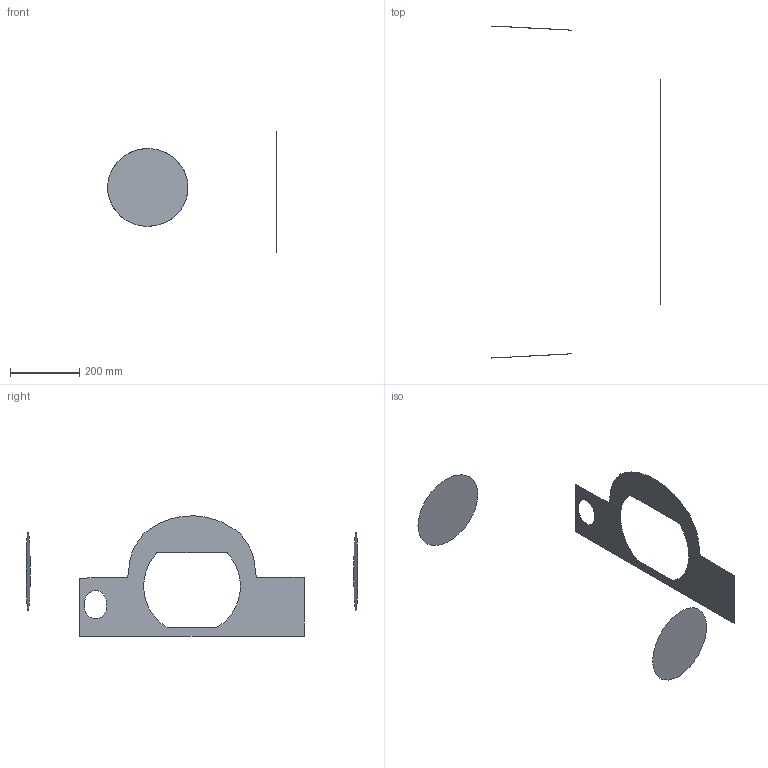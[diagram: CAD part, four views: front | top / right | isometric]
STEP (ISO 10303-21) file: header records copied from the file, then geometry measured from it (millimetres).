
FILE_DESCRIPTION(('ANSA STEP Exchange Structure File'),'2;1');
FILE_NAME('C:/Users/bhupertz/Desktop/DrivAer_Aux_CAD_240401/22_EngineBaySeals.step','2024-04-10T12:25',('bhupertz'),('none'),'ANSA 23.1.1','ANSA 23.1.1 AP214','none');
FILE_SCHEMA(('AUTOMOTIVE_DESIGN { 1 0 10303 214 1 1 1 1 }'));
Length unit declared in the file: millimetre
Products named in the file (1): 22_EngineBaySeals
Bounding box: 488.69 x 961.73 x 348.74 mm (x, y, z)
Surface area: 180919.8 mm2 (no closed solid volume)
Topology: 0 solids, 3 shells, 3 faces, 16 edges, 16 vertices
Faces by surface type: bspline 3
Entity records: 1510 total; most frequent: CARTESIAN_POINT 1379, VERTEX_POINT 16, B_SPLINE_CURVE_WITH_KNOTS 16, EDGE_CURVE 16, ORIENTED_EDGE 16, EDGE_LOOP 5, FACE_OUTER_BOUND 3, B_SPLINE_SURFACE_WITH_KNOTS 3
